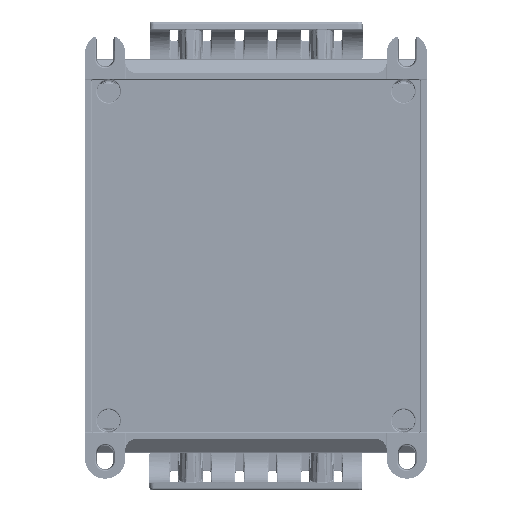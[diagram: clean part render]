
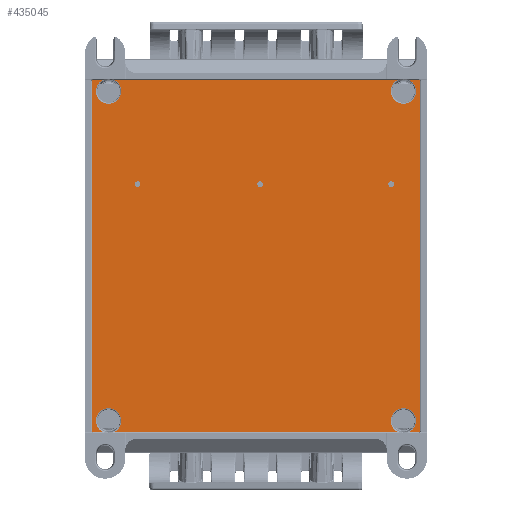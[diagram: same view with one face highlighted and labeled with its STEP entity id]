
A CAD part, front view. The second image highlights one B-rep face of the part: STEP entity #435045.
In plain terms, the highlighted planar face has unit normal (0, -1, 0).
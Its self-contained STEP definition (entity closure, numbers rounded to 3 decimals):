
#30530=CIRCLE('',#460936,0.66);
#30534=CIRCLE('',#460942,0.66);
#30537=CIRCLE('',#460947,5.386);
#30539=CIRCLE('',#460950,5.386);
#30541=CIRCLE('',#460952,5.386);
#30665=CIRCLE('',#461273,0.66);
#30669=CIRCLE('',#461279,0.66);
#30670=CIRCLE('',#461285,5.386);
#30672=CIRCLE('',#461288,5.386);
#30673=CIRCLE('',#461289,5.386);
#30674=CIRCLE('',#461290,1.25);
#30675=CIRCLE('',#461291,1.25);
#30676=CIRCLE('',#461292,1.25);
#40972=FACE_BOUND('',#90457,.T.);
#40973=FACE_BOUND('',#90458,.T.);
#40974=FACE_BOUND('',#90459,.T.);
#48243=PLANE('',#461287);
#65397=FACE_OUTER_BOUND('',#90456,.T.);
#90456=EDGE_LOOP('',(#353193,#353194,#353195,#353196,#353197,#353198,#353199,
#353200,#353201,#353202,#353203,#353204,#353205,#353206,#353207,#353208,
#353209,#353210));
#90457=EDGE_LOOP('',(#353211));
#90458=EDGE_LOOP('',(#353212));
#90459=EDGE_LOOP('',(#353213));
#124708=LINE('',#718610,#166496);
#124710=LINE('',#718622,#166498);
#124712=LINE('',#718634,#166500);
#124860=LINE('',#720373,#166648);
#124861=LINE('',#720376,#166649);
#124862=LINE('',#720478,#166650);
#124864=LINE('',#720490,#166652);
#124865=LINE('',#720497,#166653);
#166496=VECTOR('',#529221,10.);
#166498=VECTOR('',#529235,10.);
#166500=VECTOR('',#529249,10.);
#166648=VECTOR('',#530037,10.);
#166649=VECTOR('',#530040,10.);
#166650=VECTOR('',#530049,10.);
#166652=VECTOR('',#530063,10.);
#166653=VECTOR('',#530074,10.);
#211740=VERTEX_POINT('',#718565);
#211743=VERTEX_POINT('',#718586);
#211744=VERTEX_POINT('',#718606);
#211746=VERTEX_POINT('',#718612);
#211748=VERTEX_POINT('',#718618);
#211750=VERTEX_POINT('',#718624);
#211752=VERTEX_POINT('',#718630);
#211754=VERTEX_POINT('',#718720);
#211757=VERTEX_POINT('',#718766);
#211944=VERTEX_POINT('',#720354);
#211945=VERTEX_POINT('',#720356);
#211946=VERTEX_POINT('',#720375);
#211947=VERTEX_POINT('',#720453);
#211949=VERTEX_POINT('',#720476);
#211950=VERTEX_POINT('',#720480);
#211952=VERTEX_POINT('',#720486);
#211954=VERTEX_POINT('',#720492);
#211955=VERTEX_POINT('',#720507);
#211956=VERTEX_POINT('',#720510);
#211957=VERTEX_POINT('',#720512);
#211958=VERTEX_POINT('',#720514);
#261670=EDGE_CURVE('',#211740,#211744,#124708,.T.);
#261673=EDGE_CURVE('',#211744,#211746,#30530,.T.);
#261676=EDGE_CURVE('',#211746,#211748,#124710,.T.);
#261679=EDGE_CURVE('',#211748,#211750,#30534,.T.);
#261682=EDGE_CURVE('',#211750,#211752,#124712,.T.);
#261687=EDGE_CURVE('',#211752,#211754,#30537,.T.);
#261689=EDGE_CURVE('',#211743,#211757,#30539,.T.);
#261691=EDGE_CURVE('',#211757,#211740,#30541,.T.);
#262050=EDGE_CURVE('',#211944,#211743,#124860,.T.);
#262051=EDGE_CURVE('',#211754,#211946,#124861,.T.);
#262057=EDGE_CURVE('',#211947,#211949,#124862,.T.);
#262060=EDGE_CURVE('',#211949,#211950,#30665,.T.);
#262063=EDGE_CURVE('',#211950,#211952,#124864,.T.);
#262066=EDGE_CURVE('',#211952,#211954,#30669,.T.);
#262067=EDGE_CURVE('',#211954,#211945,#124865,.T.);
#262070=EDGE_CURVE('',#211946,#211947,#30670,.T.);
#262072=EDGE_CURVE('',#211955,#211944,#30672,.T.);
#262073=EDGE_CURVE('',#211945,#211955,#30673,.T.);
#262074=EDGE_CURVE('',#211956,#211956,#30674,.T.);
#262075=EDGE_CURVE('',#211957,#211957,#30675,.T.);
#262076=EDGE_CURVE('',#211958,#211958,#30676,.T.);
#353193=ORIENTED_EDGE('',*,*,#262050,.F.);
#353194=ORIENTED_EDGE('',*,*,#262072,.F.);
#353195=ORIENTED_EDGE('',*,*,#262073,.F.);
#353196=ORIENTED_EDGE('',*,*,#262067,.F.);
#353197=ORIENTED_EDGE('',*,*,#262066,.F.);
#353198=ORIENTED_EDGE('',*,*,#262063,.F.);
#353199=ORIENTED_EDGE('',*,*,#262060,.F.);
#353200=ORIENTED_EDGE('',*,*,#262057,.F.);
#353201=ORIENTED_EDGE('',*,*,#262070,.F.);
#353202=ORIENTED_EDGE('',*,*,#262051,.F.);
#353203=ORIENTED_EDGE('',*,*,#261687,.F.);
#353204=ORIENTED_EDGE('',*,*,#261682,.F.);
#353205=ORIENTED_EDGE('',*,*,#261679,.F.);
#353206=ORIENTED_EDGE('',*,*,#261676,.F.);
#353207=ORIENTED_EDGE('',*,*,#261673,.F.);
#353208=ORIENTED_EDGE('',*,*,#261670,.F.);
#353209=ORIENTED_EDGE('',*,*,#261691,.F.);
#353210=ORIENTED_EDGE('',*,*,#261689,.F.);
#353211=ORIENTED_EDGE('',*,*,#262074,.T.);
#353212=ORIENTED_EDGE('',*,*,#262075,.T.);
#353213=ORIENTED_EDGE('',*,*,#262076,.T.);
#435045=ADVANCED_FACE('',(#65397,#40972,#40973,#40974),#48243,.F.);
#460936=AXIS2_PLACEMENT_3D('',#718616,#529228,#529229);
#460942=AXIS2_PLACEMENT_3D('',#718628,#529242,#529243);
#460947=AXIS2_PLACEMENT_3D('',#718763,#529254,#529255);
#460950=AXIS2_PLACEMENT_3D('',#718767,#529260,#529261);
#460952=AXIS2_PLACEMENT_3D('',#718769,#529264,#529265);
#461273=AXIS2_PLACEMENT_3D('',#720484,#530056,#530057);
#461279=AXIS2_PLACEMENT_3D('',#720495,#530070,#530071);
#461285=AXIS2_PLACEMENT_3D('',#720504,#530085,#530086);
#461287=AXIS2_PLACEMENT_3D('',#720506,#530089,#530090);
#461288=AXIS2_PLACEMENT_3D('',#720508,#530091,#530092);
#461289=AXIS2_PLACEMENT_3D('',#720509,#530093,#530094);
#461290=AXIS2_PLACEMENT_3D('',#720511,#530095,#530096);
#461291=AXIS2_PLACEMENT_3D('',#720513,#530097,#530098);
#461292=AXIS2_PLACEMENT_3D('',#720515,#530099,#530100);
#529221=DIRECTION('',(1.,0.,0.));
#529228=DIRECTION('center_axis',(0.,1.,0.));
#529229=DIRECTION('ref_axis',(0.707,0.,0.707));
#529235=DIRECTION('',(0.,0.,-1.));
#529242=DIRECTION('center_axis',(0.,1.,0.));
#529243=DIRECTION('ref_axis',(0.707,0.,-0.707));
#529249=DIRECTION('',(-1.,0.,0.));
#529254=DIRECTION('center_axis',(0.,-1.,0.));
#529255=DIRECTION('ref_axis',(-1.,0.,0.));
#529260=DIRECTION('center_axis',(0.,-1.,0.));
#529261=DIRECTION('ref_axis',(-1.,0.,0.));
#529264=DIRECTION('center_axis',(0.,-1.,0.));
#529265=DIRECTION('ref_axis',(-1.,0.,0.));
#530037=DIRECTION('',(1.,0.,0.));
#530040=DIRECTION('',(-1.,0.,0.));
#530049=DIRECTION('',(-1.,0.,0.));
#530056=DIRECTION('center_axis',(0.,1.,0.));
#530057=DIRECTION('ref_axis',(-0.707,0.,-0.707));
#530063=DIRECTION('',(0.,0.,1.));
#530070=DIRECTION('center_axis',(0.,1.,0.));
#530071=DIRECTION('ref_axis',(-0.707,0.,0.707));
#530074=DIRECTION('',(1.,0.,0.));
#530085=DIRECTION('center_axis',(0.,-1.,0.));
#530086=DIRECTION('ref_axis',(-1.,0.,0.));
#530089=DIRECTION('center_axis',(0.,1.,0.));
#530090=DIRECTION('ref_axis',(0.,0.,1.));
#530091=DIRECTION('center_axis',(0.,-1.,0.));
#530092=DIRECTION('ref_axis',(-1.,0.,0.));
#530093=DIRECTION('center_axis',(0.,-1.,0.));
#530094=DIRECTION('ref_axis',(-1.,0.,0.));
#530095=DIRECTION('center_axis',(0.,1.,0.));
#530096=DIRECTION('ref_axis',(-1.,0.,0.));
#530097=DIRECTION('center_axis',(0.,1.,0.));
#530098=DIRECTION('ref_axis',(-1.,0.,0.));
#530099=DIRECTION('center_axis',(0.,1.,0.));
#530100=DIRECTION('ref_axis',(-1.,0.,0.));
#718565=CARTESIAN_POINT('',(23.47,1.,75.16));
#718586=CARTESIAN_POINT('',(18.43,1.,75.16));
#718606=CARTESIAN_POINT('',(27.45,1.,75.16));
#718610=CARTESIAN_POINT('',(-33.775,1.,75.16));
#718612=CARTESIAN_POINT('',(28.11,1.,74.5));
#718616=CARTESIAN_POINT('Origin',(27.45,1.,74.5));
#718618=CARTESIAN_POINT('',(28.11,1.,-74.5));
#718622=CARTESIAN_POINT('',(28.11,1.,-43.25));
#718624=CARTESIAN_POINT('',(27.45,1.,-75.16));
#718628=CARTESIAN_POINT('Origin',(27.45,1.,-74.5));
#718630=CARTESIAN_POINT('',(23.47,1.,-75.16));
#718634=CARTESIAN_POINT('',(-134.225,1.,-75.16));
#718720=CARTESIAN_POINT('',(18.43,1.,-75.16));
#718763=CARTESIAN_POINT('Origin',(20.95,1.,-70.4));
#718766=CARTESIAN_POINT('',(20.95,1.,65.014));
#718767=CARTESIAN_POINT('Origin',(20.95,1.,70.4));
#718769=CARTESIAN_POINT('Origin',(20.95,1.,70.4));
#720354=CARTESIAN_POINT('',(-102.43,1.,75.16));
#720356=CARTESIAN_POINT('',(-107.47,1.,75.16));
#720373=CARTESIAN_POINT('',(50.225,1.,75.16));
#720375=CARTESIAN_POINT('',(-102.43,1.,-75.16));
#720376=CARTESIAN_POINT('',(-50.225,1.,-75.16));
#720453=CARTESIAN_POINT('',(-107.47,1.,-75.16));
#720476=CARTESIAN_POINT('',(-111.45,1.,-75.16));
#720478=CARTESIAN_POINT('',(-50.225,1.,-75.16));
#720480=CARTESIAN_POINT('',(-112.11,1.,-74.5));
#720484=CARTESIAN_POINT('Origin',(-111.45,1.,-74.5));
#720486=CARTESIAN_POINT('',(-112.11,1.,74.5));
#720490=CARTESIAN_POINT('',(-112.11,1.,43.25));
#720492=CARTESIAN_POINT('',(-111.45,1.,75.16));
#720495=CARTESIAN_POINT('Origin',(-111.45,1.,74.5));
#720497=CARTESIAN_POINT('',(50.225,1.,75.16));
#720504=CARTESIAN_POINT('Origin',(-104.95,1.,-70.4));
#720506=CARTESIAN_POINT('Origin',(0.,1.,0.));
#720507=CARTESIAN_POINT('',(-104.95,1.,65.014));
#720508=CARTESIAN_POINT('Origin',(-104.95,1.,70.4));
#720509=CARTESIAN_POINT('Origin',(-104.95,1.,70.4));
#720510=CARTESIAN_POINT('',(17.025,1.,30.65));
#720511=CARTESIAN_POINT('Origin',(15.775,1.,30.65));
#720512=CARTESIAN_POINT('',(-91.335,1.,30.65));
#720513=CARTESIAN_POINT('Origin',(-92.585,1.,30.65));
#720514=CARTESIAN_POINT('',(-38.975,1.,30.65));
#720515=CARTESIAN_POINT('Origin',(-40.225,1.,30.65));
